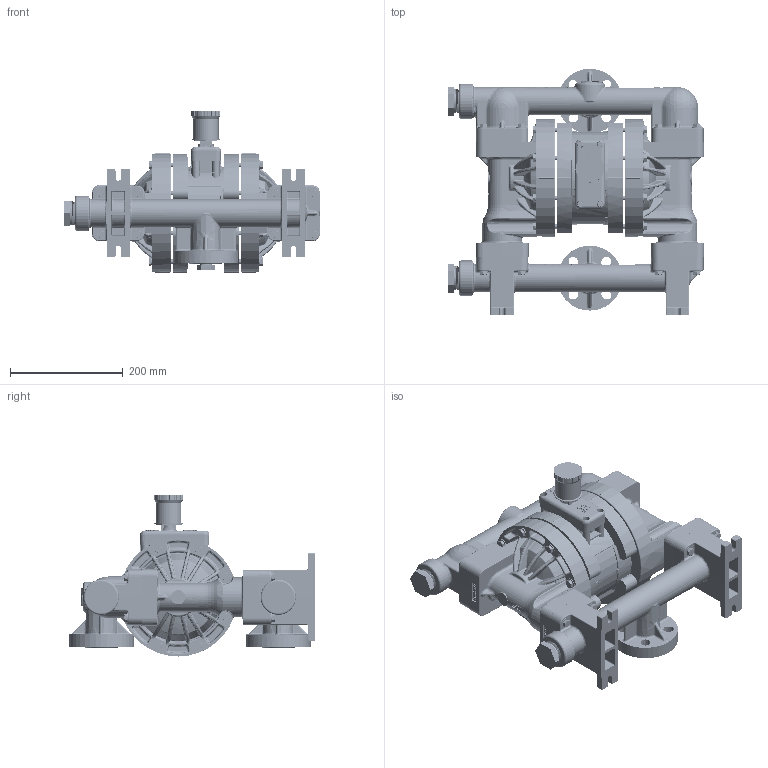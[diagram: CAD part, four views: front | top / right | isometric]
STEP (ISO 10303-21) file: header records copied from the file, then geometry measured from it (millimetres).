
FILE_DESCRIPTION (( 'STEP AP203' ), '1' );
FILE_NAME ('P200_CP_FLANGED.STEP', '2025-04-02T10:49:42', ( '' ), ( '' ), 'SwSTEP 2.0', 'SolidWorks 2022', '' );
FILE_SCHEMA (( 'CONFIG_CONTROL_DESIGN' ));
Length unit declared in the file: inch
Products named in the file (1): P200_CP_FLANGED
Bounding box: 453.4 x 437.39 x 287.5 mm (x, y, z)
Volume: 12201021.4 mm3; surface area: 914533.8 mm2
Topology: 1 solids, 2 shells, 8632 faces, 22479 edges, 14125 vertices
Faces by surface type: plane 5109, bspline 1518, cylinder 1052, cone 483, torus 260, sphere 210
Entity records: 417502 total; most frequent: CARTESIAN_POINT 219294, ORIENTED_EDGE 44900, DIRECTION 35764, EDGE_CURVE 22450, VERTEX_POINT 14122, LINE 13760, VECTOR 13760, AXIS2_PLACEMENT_3D 11002
